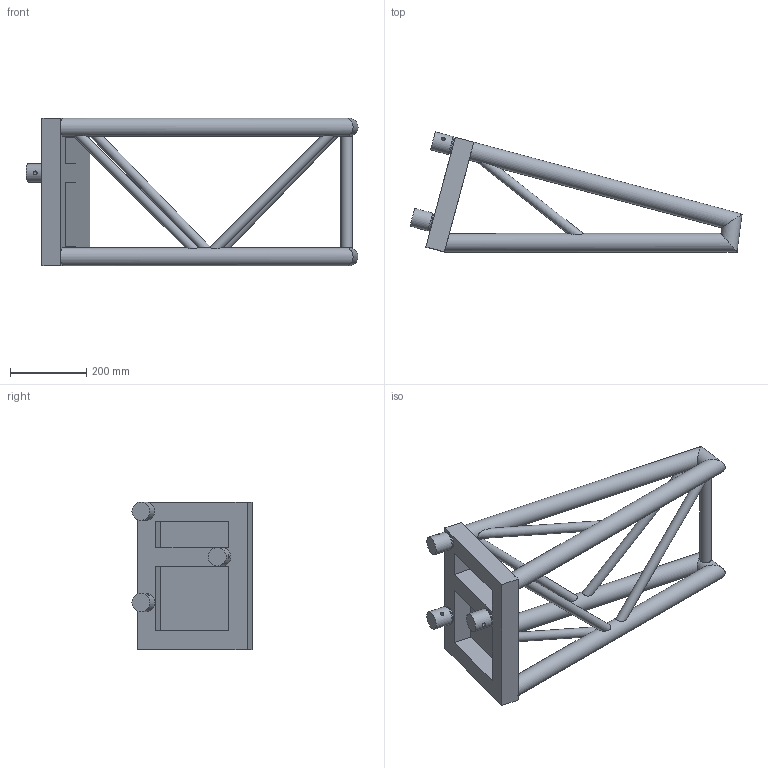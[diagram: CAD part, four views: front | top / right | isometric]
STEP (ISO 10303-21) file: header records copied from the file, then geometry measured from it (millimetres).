
FILE_DESCRIPTION(/* description */ (''),/* implementation_level */ '2;1');
FILE_NAME(/* name */ 'M:\Symbolen_NIEUW\STP\Adapters\111710011.stp',/* time_stamp */ '2015-06-09T17:05:45+02:00',/* author */ ('Sietse'),/* organization */ (''),/* preprocessor_version */ 'ST-DEVELOPER v15.6',/* originating_system */ 'Autodesk Inventor 2015',/* authorisation */ '');
FILE_SCHEMA (('AUTOMOTIVE_DESIGN { 1 0 10303 214 3 1 1 }'));
Length unit declared in the file: millimetre
Products named in the file (1): 160024429
Bounding box: 869.12 x 314.24 x 387.3 mm (x, y, z)
Volume: 10504754.6 mm3; surface area: 1044209.7 mm2
Topology: 2 solids, 2 shells, 52 faces, 138 edges, 87 vertices
Faces by surface type: plane 27, cylinder 22, cone 3
Full cylindrical faces by diameter (mm): 10 x3, 25 x6, 30 x1, 41.8 x3, 48.3 x9
Entity records: 2268 total; most frequent: CARTESIAN_POINT 1027, DIRECTION 202, ORIENTED_EDGE 200, EDGE_LOOP 100, EDGE_CURVE 98, AXIS2_PLACEMENT_3D 79, VERTEX_POINT 78, FACE_BOUND 52
